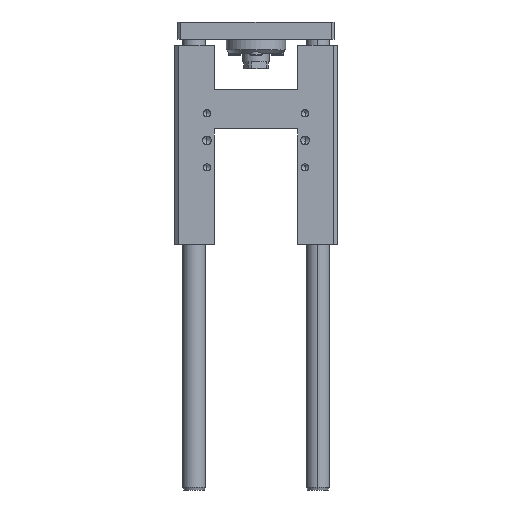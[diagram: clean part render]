
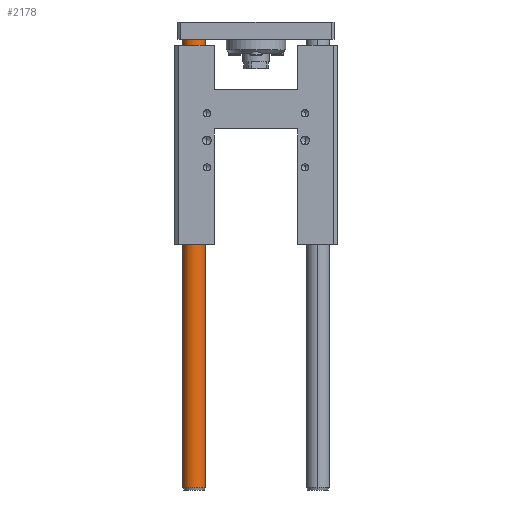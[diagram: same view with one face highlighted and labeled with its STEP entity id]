
A CAD part, front view. The second image highlights one B-rep face of the part: STEP entity #2178.
In plain terms, the highlighted cylindrical face has radius 8 mm (diameter 16 mm), a partial arc.
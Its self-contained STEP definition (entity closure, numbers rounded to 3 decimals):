
#848 = LINE ( 'NONE', #23719, #12491 ) ;
#1232 = EDGE_CURVE ( 'NONE', #10444, #20385, #848, .T. ) ;
#2021 = CARTESIAN_POINT ( 'NONE',  ( -35.974, 2.713, -170.788 ) ) ;
#2178 = ADVANCED_FACE ( 'NONE', ( #19124 ), #5596, .T. ) ;
#2956 = AXIS2_PLACEMENT_3D ( 'NONE', #20509, #26718, #9578 ) ;
#3170 = CIRCLE ( 'NONE', #3737, 8. ) ;
#3418 = EDGE_CURVE ( 'NONE', #20926, #11217, #9497, .T. ) ;
#3737 = AXIS2_PLACEMENT_3D ( 'NONE', #6153, #3869, #7838 ) ;
#3790 = EDGE_CURVE ( 'NONE', #11217, #20385, #3170, .T. ) ;
#3869 = DIRECTION ( 'NONE',  ( 0., 0., 1. ) ) ;
#4999 = ORIENTED_EDGE ( 'NONE', *, *, #1232, .T. ) ;
#5596 = CYLINDRICAL_SURFACE ( 'NONE', #25839, 8. ) ;
#6153 = CARTESIAN_POINT ( 'NONE',  ( -43.5, 0., 144.212 ) ) ;
#6490 = DIRECTION ( 'NONE',  ( 0., 0., 1. ) ) ;
#7288 = CARTESIAN_POINT ( 'NONE',  ( -35.974, 2.713, 144.212 ) ) ;
#7838 = DIRECTION ( 'NONE',  ( 0.941, 0.339, 0. ) ) ;
#9497 = LINE ( 'NONE', #23077, #9840 ) ;
#9578 = DIRECTION ( 'NONE',  ( -0.941, -0.339, 0. ) ) ;
#9840 = VECTOR ( 'NONE', #12450, 1000. ) ;
#10334 = ORIENTED_EDGE ( 'NONE', *, *, #3418, .F. ) ;
#10387 = ORIENTED_EDGE ( 'NONE', *, *, #18374, .T. ) ;
#10444 = VERTEX_POINT ( 'NONE', #2021 ) ;
#11217 = VERTEX_POINT ( 'NONE', #25605 ) ;
#12450 = DIRECTION ( 'NONE',  ( 0., 0., 1. ) ) ;
#12491 = VECTOR ( 'NONE', #6490, 1000. ) ;
#12568 = DIRECTION ( 'NONE',  ( 0., 0., 1. ) ) ;
#15335 = CIRCLE ( 'NONE', #2956, 8. ) ;
#18374 = EDGE_CURVE ( 'NONE', #20926, #10444, #15335, .T. ) ;
#19124 = FACE_OUTER_BOUND ( 'NONE', #27385, .T. ) ;
#20385 = VERTEX_POINT ( 'NONE', #7288 ) ;
#20509 = CARTESIAN_POINT ( 'NONE',  ( -43.5, 0., -170.788 ) ) ;
#20926 = VERTEX_POINT ( 'NONE', #23177 ) ;
#23077 = CARTESIAN_POINT ( 'NONE',  ( -51.026, -2.713, -172.788 ) ) ;
#23177 = CARTESIAN_POINT ( 'NONE',  ( -51.026, -2.713, -170.788 ) ) ;
#23198 = DIRECTION ( 'NONE',  ( 0.941, 0.339, 0. ) ) ;
#23719 = CARTESIAN_POINT ( 'NONE',  ( -35.974, 2.713, -172.788 ) ) ;
#25496 = CARTESIAN_POINT ( 'NONE',  ( -43.5, 0., -172.788 ) ) ;
#25605 = CARTESIAN_POINT ( 'NONE',  ( -51.026, -2.713, 144.212 ) ) ;
#25839 = AXIS2_PLACEMENT_3D ( 'NONE', #25496, #12568, #23198 ) ;
#26012 = ORIENTED_EDGE ( 'NONE', *, *, #3790, .F. ) ;
#26718 = DIRECTION ( 'NONE',  ( 0., 0., 1. ) ) ;
#27385 = EDGE_LOOP ( 'NONE', ( #10334, #10387, #4999, #26012 ) ) ;
